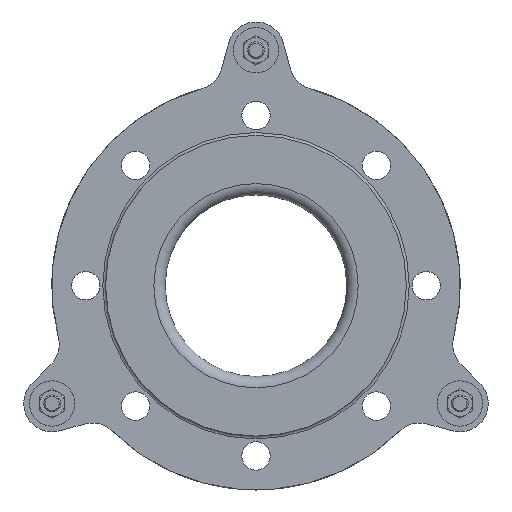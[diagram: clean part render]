
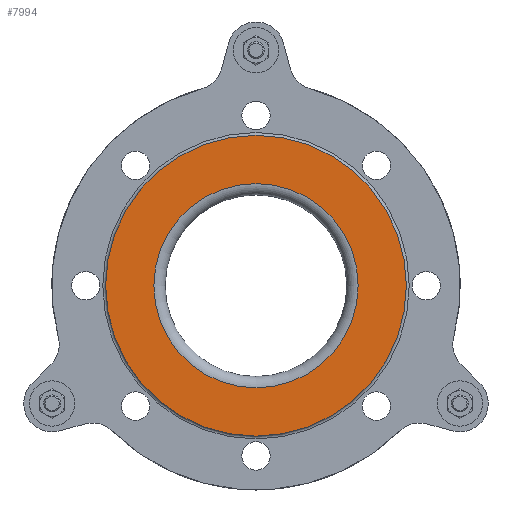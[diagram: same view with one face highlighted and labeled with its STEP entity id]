
A CAD part, left-side view. The second image highlights one B-rep face of the part: STEP entity #7994.
In plain terms, the highlighted planar face has unit normal (-1, 0, 0).
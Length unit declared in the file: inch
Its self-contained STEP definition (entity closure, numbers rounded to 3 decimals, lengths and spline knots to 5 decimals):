
#1359=FACE_BOUND('',#2491,.T.);
#1805=FACE_OUTER_BOUND('',#2490,.T.);
#2490=EDGE_LOOP('',(#6521));
#2491=EDGE_LOOP('',(#6522));
#2997=CIRCLE('',#8889,3.3125);
#2998=CIRCLE('',#8891,2.25);
#3636=VERTEX_POINT('',#14172);
#3637=VERTEX_POINT('',#14175);
#4612=EDGE_CURVE('',#3636,#3636,#2997,.T.);
#4613=EDGE_CURVE('',#3637,#3637,#2998,.T.);
#6521=ORIENTED_EDGE('',*,*,#4612,.T.);
#6522=ORIENTED_EDGE('',*,*,#4613,.F.);
#7043=PLANE('',#8890);
#7994=ADVANCED_FACE('',(#1805,#1359),#7043,.T.);
#8889=AXIS2_PLACEMENT_3D('',#14173,#10834,#10835);
#8890=AXIS2_PLACEMENT_3D('',#14174,#10836,#10837);
#8891=AXIS2_PLACEMENT_3D('',#14176,#10838,#10839);
#10834=DIRECTION('center_axis',(-1.,0.,0.));
#10835=DIRECTION('ref_axis',(0.,-1.,0.));
#10836=DIRECTION('center_axis',(-1.,0.,0.));
#10837=DIRECTION('ref_axis',(0.,-1.,0.));
#10838=DIRECTION('center_axis',(-1.,0.,0.));
#10839=DIRECTION('ref_axis',(0.,-1.,0.));
#14172=CARTESIAN_POINT('',(-1.75,0.,3.3125));
#14173=CARTESIAN_POINT('Origin',(-1.75,0.,0.));
#14174=CARTESIAN_POINT('Origin',(-1.75,0.,2.25));
#14175=CARTESIAN_POINT('',(-1.75,0.,2.25));
#14176=CARTESIAN_POINT('Origin',(-1.75,0.,0.));
